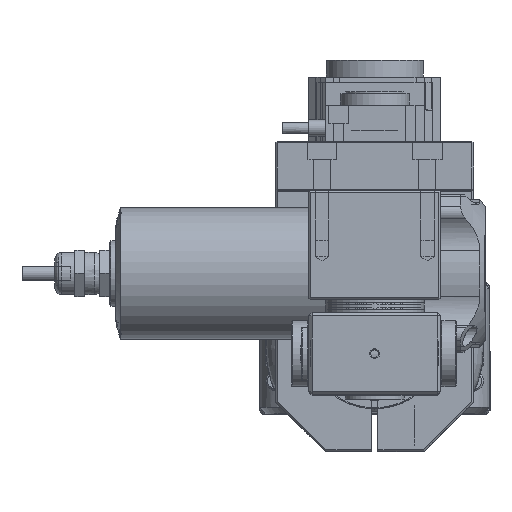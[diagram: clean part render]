
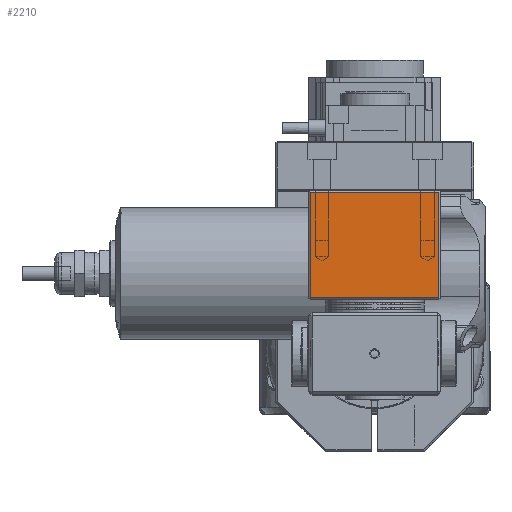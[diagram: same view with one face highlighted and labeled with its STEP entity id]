
A CAD part, top view. The second image highlights one B-rep face of the part: STEP entity #2210.
In plain terms, the highlighted planar face has unit normal (0, 0, 1) as drawn and (1, 0, 0) by its records, which use the part's own axes.
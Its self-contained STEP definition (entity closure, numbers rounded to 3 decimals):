
#2210 = ADVANCED_FACE( '', ( #4805 ), #4806, .F. );
#4805 = FACE_OUTER_BOUND( '', #8630, .T. );
#4806 = PLANE( '', #8631 );
#8630 = EDGE_LOOP( '', ( #16235, #16236, #16237, #16238 ) );
#8631 = AXIS2_PLACEMENT_3D( '', #16239, #16240, #16241 );
#16235 = ORIENTED_EDGE( '', *, *, #24477, .T. );
#16236 = ORIENTED_EDGE( '', *, *, #24478, .T. );
#16237 = ORIENTED_EDGE( '', *, *, #24479, .T. );
#16238 = ORIENTED_EDGE( '', *, *, #24480, .T. );
#16239 = CARTESIAN_POINT( '', ( 20., -20., 33. ) );
#16240 = DIRECTION( '', ( -1., 0., 0. ) );
#16241 = DIRECTION( '', ( 0., 0., 1. ) );
#24477 = EDGE_CURVE( '', #29601, #29602, #29603, .T. );
#24478 = EDGE_CURVE( '', #29602, #29604, #29605, .T. );
#24479 = EDGE_CURVE( '', #29604, #29606, #29607, .T. );
#24480 = EDGE_CURVE( '', #29606, #29601, #29608, .T. );
#29601 = VERTEX_POINT( '', #36223 );
#29602 = VERTEX_POINT( '', #36224 );
#29603 = LINE( '', #36225, #36226 );
#29604 = VERTEX_POINT( '', #36227 );
#29605 = LINE( '', #36228, #36229 );
#29606 = VERTEX_POINT( '', #36230 );
#29607 = LINE( '', #36231, #36232 );
#29608 = LINE( '', #36233, #36234 );
#36223 = CARTESIAN_POINT( '', ( 20., -19.5, 32.5 ) );
#36224 = CARTESIAN_POINT( '', ( 20., -19.5, 0.5 ) );
#36225 = CARTESIAN_POINT( '', ( 20., -19.5, 33. ) );
#36226 = VECTOR( '', #53442, 1000. );
#36227 = CARTESIAN_POINT( '', ( 20., 19.5, 0.5 ) );
#36228 = CARTESIAN_POINT( '', ( 20., -20., 0.5 ) );
#36229 = VECTOR( '', #53443, 1000. );
#36230 = CARTESIAN_POINT( '', ( 20., 19.5, 32.5 ) );
#36231 = CARTESIAN_POINT( '', ( 20., 19.5, 33. ) );
#36232 = VECTOR( '', #53444, 1000. );
#36233 = CARTESIAN_POINT( '', ( 20., -20., 32.5 ) );
#36234 = VECTOR( '', #53445, 1000. );
#53442 = DIRECTION( '', ( 0., 0., -1. ) );
#53443 = DIRECTION( '', ( 0., 1., 0. ) );
#53444 = DIRECTION( '', ( 0., 0., 1. ) );
#53445 = DIRECTION( '', ( 0., -1., 0. ) );
